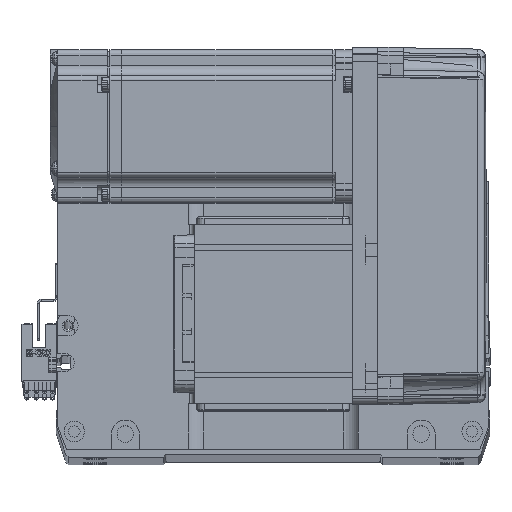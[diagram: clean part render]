
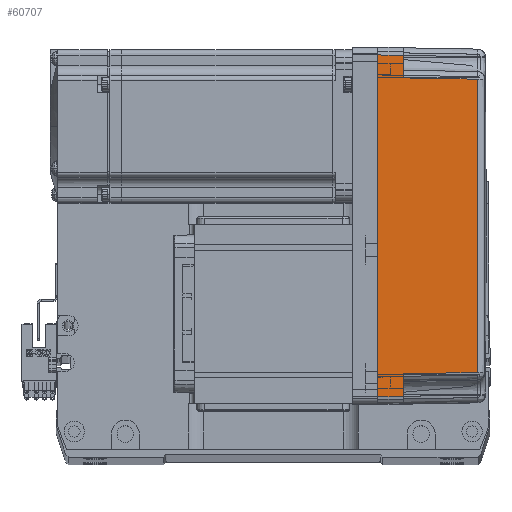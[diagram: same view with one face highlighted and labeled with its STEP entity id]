
A CAD part, top view. The second image highlights one B-rep face of the part: STEP entity #60707.
In plain terms, the highlighted planar face has unit normal (0.018, 0, 1) as drawn and (0, -1, 0.017) by its records, which use the part's own axes.
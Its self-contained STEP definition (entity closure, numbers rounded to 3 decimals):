
#747 = DIRECTION ( 'NONE',  ( -1., 0., 0. ) ) ;
#1540 = LINE ( 'NONE', #57633, #35916 ) ;
#2135 = CARTESIAN_POINT ( 'NONE',  ( 19.165, -35.316, 39.181 ) ) ;
#2586 = ORIENTED_EDGE ( 'NONE', *, *, #50583, .T. ) ;
#6866 = CARTESIAN_POINT ( 'NONE',  ( 58., -35.825, 10. ) ) ;
#7597 = ORIENTED_EDGE ( 'NONE', *, *, #39822, .T. ) ;
#9186 = EDGE_CURVE ( 'NONE', #52253, #42244, #64244, .T. ) ;
#11309 = EDGE_CURVE ( 'NONE', #28038, #61476, #1540, .T. ) ;
#13224 = LINE ( 'NONE', #18134, #31604 ) ;
#15602 = LINE ( 'NONE', #52493, #61157 ) ;
#15765 = CARTESIAN_POINT ( 'NONE',  ( -57.495, -35.32, 38.985 ) ) ;
#15985 = CARTESIAN_POINT ( 'NONE',  ( -58., -35.825, 10. ) ) ;
#17958 = VECTOR ( 'NONE', #66218, 1000. ) ;
#18134 = CARTESIAN_POINT ( 'NONE',  ( 70., -35.825, 10. ) ) ;
#21899 = DIRECTION ( 'NONE',  ( -0.017, -0.017, -1. ) ) ;
#22168 = CARTESIAN_POINT ( 'NONE',  ( 67., -36., 0. ) ) ;
#22384 = VECTOR ( 'NONE', #747, 1000. ) ;
#23318 = CARTESIAN_POINT ( 'NONE',  ( 70., -35.825, 10. ) ) ;
#23474 = LINE ( 'NONE', #22168, #57797 ) ;
#23774 = ORIENTED_EDGE ( 'NONE', *, *, #65316, .T. ) ;
#25980 = CARTESIAN_POINT ( 'NONE',  ( 0., -36., 0. ) ) ;
#26767 = CARTESIAN_POINT ( 'NONE',  ( -66.826, -35.825, 10. ) ) ;
#28038 = VERTEX_POINT ( 'NONE', #64741 ) ;
#28477 = PLANE ( 'NONE',  #33606 ) ;
#28691 = CARTESIAN_POINT ( 'NONE',  ( 70., -36., 0. ) ) ;
#28743 = LINE ( 'NONE', #23318, #58275 ) ;
#28891 = EDGE_LOOP ( 'NONE', ( #23774, #52574, #65855, #7597, #2586, #44109, #56826, #33848 ) ) ;
#28942 = CARTESIAN_POINT ( 'NONE',  ( 58., -35.825, 10. ) ) ;
#31604 = VECTOR ( 'NONE', #38843, 1000. ) ;
#33606 = AXIS2_PLACEMENT_3D ( 'NONE', #28691, #43993, #48744 ) ;
#33848 = ORIENTED_EDGE ( 'NONE', *, *, #49526, .F. ) ;
#34082 = DIRECTION ( 'NONE',  ( -1., 0., 0. ) ) ;
#35916 = VECTOR ( 'NONE', #47290, 1000. ) ;
#36709 = DIRECTION ( 'NONE',  ( -0.017, 0.017, 1. ) ) ;
#38032 = CARTESIAN_POINT ( 'NONE',  ( -19.165, -35.316, 39.181 ) ) ;
#38843 = DIRECTION ( 'NONE',  ( -1., 0., 0. ) ) ;
#39434 = VERTEX_POINT ( 'NONE', #43720 ) ;
#39822 = EDGE_CURVE ( 'NONE', #42244, #49172, #55983, .T. ) ;
#42244 = VERTEX_POINT ( 'NONE', #49679 ) ;
#43110 = LINE ( 'NONE', #25980, #22384 ) ;
#43593 = CARTESIAN_POINT ( 'NONE',  ( 67., -36., 0. ) ) ;
#43720 = CARTESIAN_POINT ( 'NONE',  ( 66.826, -35.825, 10. ) ) ;
#43993 = DIRECTION ( 'NONE',  ( 0., -1., 0.017 ) ) ;
#44109 = ORIENTED_EDGE ( 'NONE', *, *, #50720, .T. ) ;
#47290 = DIRECTION ( 'NONE',  ( 0.017, 0.017, 1. ) ) ;
#48744 = DIRECTION ( 'NONE',  ( 0., -0.017, -1. ) ) ;
#49172 = VERTEX_POINT ( 'NONE', #15765 ) ;
#49526 = EDGE_CURVE ( 'NONE', #50097, #28038, #43110, .T. ) ;
#49679 = CARTESIAN_POINT ( 'NONE',  ( 57.495, -35.32, 38.985 ) ) ;
#50097 = VERTEX_POINT ( 'NONE', #43593 ) ;
#50583 = EDGE_CURVE ( 'NONE', #49172, #60527, #15602, .T. ) ;
#50720 = EDGE_CURVE ( 'NONE', #60527, #61476, #13224, .T. ) ;
#52253 = VERTEX_POINT ( 'NONE', #6866 ) ;
#52493 = CARTESIAN_POINT ( 'NONE',  ( -57.495, -35.32, 38.985 ) ) ;
#52574 = ORIENTED_EDGE ( 'NONE', *, *, #60133, .T. ) ;
#55822 = FACE_OUTER_BOUND ( 'NONE', #28891, .T. ) ;
#55983 = B_SPLINE_CURVE_WITH_KNOTS ( 'NONE', 3,
 ( #63254, #2135, #38032, #58805 ),
 .UNSPECIFIED., .F., .F.,
 ( 4, 4 ),
 ( 0., 1. ),
 .UNSPECIFIED. ) ;
#56826 = ORIENTED_EDGE ( 'NONE', *, *, #11309, .F. ) ;
#57633 = CARTESIAN_POINT ( 'NONE',  ( -66.959, -35.958, 2.39 ) ) ;
#57797 = VECTOR ( 'NONE', #36709, 1000. ) ;
#58275 = VECTOR ( 'NONE', #34082, 1000. ) ;
#58805 = CARTESIAN_POINT ( 'NONE',  ( -57.495, -35.32, 38.985 ) ) ;
#60133 = EDGE_CURVE ( 'NONE', #39434, #52253, #28743, .T. ) ;
#60527 = VERTEX_POINT ( 'NONE', #15985 ) ;
#60707 = ADVANCED_FACE ( 'NONE', ( #55822 ), #28477, .T. ) ;
#61157 = VECTOR ( 'NONE', #21899, 1000. ) ;
#61476 = VERTEX_POINT ( 'NONE', #26767 ) ;
#63254 = CARTESIAN_POINT ( 'NONE',  ( 57.495, -35.32, 38.985 ) ) ;
#64244 = LINE ( 'NONE', #28942, #17958 ) ;
#64741 = CARTESIAN_POINT ( 'NONE',  ( -67., -36., 0. ) ) ;
#65316 = EDGE_CURVE ( 'NONE', #50097, #39434, #23474, .T. ) ;
#65855 = ORIENTED_EDGE ( 'NONE', *, *, #9186, .T. ) ;
#66218 = DIRECTION ( 'NONE',  ( -0.017, 0.017, 1. ) ) ;
